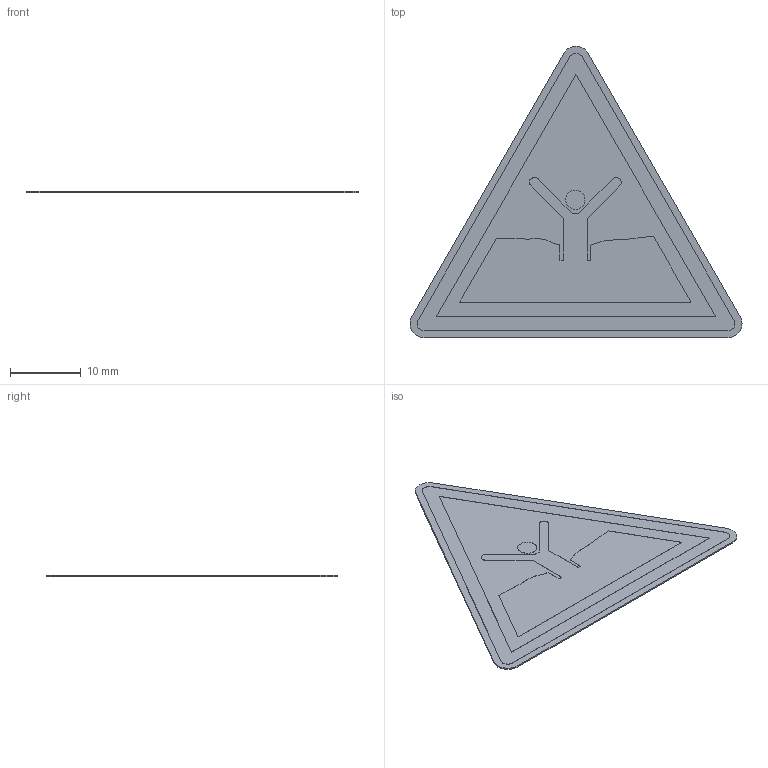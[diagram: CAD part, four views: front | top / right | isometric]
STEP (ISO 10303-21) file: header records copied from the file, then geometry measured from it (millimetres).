
FILE_DESCRIPTION (( 'STEP AP214' ), '1' );
FILE_NAME ('W061_Warnung vor Treibsand oder tiefem Schlamm.STEP', '2022-03-05T05:27:42', ( '' ), ( '' ), 'SwSTEP 2.0', 'SolidWorks 2021', '' );
FILE_SCHEMA (( 'AUTOMOTIVE_DESIGN' ));
Length unit declared in the file: millimetre
Products named in the file (1): W061_Warnung vor Treibsand oder tiefem Schlamm
Bounding box: 47.07 x 41.3 x 0.22 mm (x, y, z)
Volume: 225.6 mm3; surface area: 2184.7 mm2
Topology: 1 solids, 1 shells, 75 faces, 207 edges, 138 vertices
Faces by surface type: plane 62, cylinder 13
Entity records: 3116 total; most frequent: CARTESIAN_POINT 421, ORIENTED_EDGE 414, DIRECTION 385, EDGE_CURVE 207, LINE 181, VECTOR 181, VERTEX_POINT 138, AXIS2_PLACEMENT_3D 102
